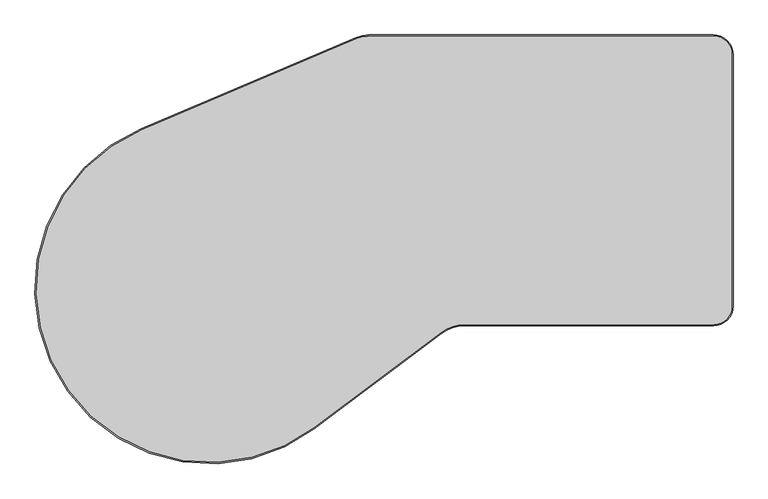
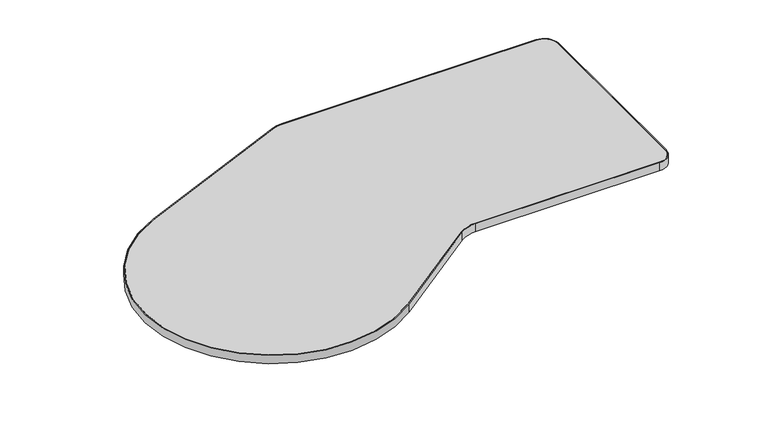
"""IFC4 building model written with IfcOpenShell, lengths in millimetres: furniture geometry, Steelcase - Answer Solution - Universal Table - Bubble Jetty - 3mm Edge : 30D x 72W - Left."""

from ifc_helpers import new_model, si_unit, point, frame, frame_2d, origin, place, context, project, spatial, polyline, circle_curve, trimmed, segment, composite_curve, outline, extrude, source, transform, mapped, element, save


def furniture_c1630981(model_context):
    return source(origin(), model_context, "Body", "SweptSolid", [
        extrude(outline(composite_curve([segment(polyline([(-953.9450486, 0.0), (-52.48308, 0.0)]), True, "CONTINUOUS"), segment(trimmed(circle_curve(frame_2d((-52.48308, -52.48308)), 52.48308), [point((-52.48308, 0.0))], [point((0.0, -52.48308))], False, "CARTESIAN"), True, "CONTINUOUS"), segment(polyline([(0.0, -52.48308), (0.0, -711.2)]), True, "CONTINUOUS"), segment(trimmed(circle_curve(frame_2d((-50.8, -711.2)), 50.8), [point((0.0, -711.2))], [point((-50.8, -762.0))], False, "CARTESIAN"), True, "CONTINUOUS"), segment(polyline([(-50.8, -762.0), (-704.4618773, -762.0)]), True, "CONTINUOUS"), segment(trimmed(circle_curve(frame_2d((-704.4618773, -860.1972534)), 98.1972534), [point((-704.4618773, -762.0))], [point((-763.3782105, -781.6379366))], True, "CARTESIAN"), True, "CONTINUOUS"), segment(polyline([(-763.3782105, -781.6379366), (-1097.5002406, -1032.216043)]), True, "CONTINUOUS"), segment(trimmed(circle_curve(frame_2d((-1372.0442318, -666.5465277)), 457.2620666), [point((-1097.5002406, -1032.216043))], [point((-1550.7107551, -245.634576))], False, "CARTESIAN"), True, "CONTINUOUS"), segment(polyline([(-1550.7107551, -245.634576), (-988.6810459, -7.0671185)]), True, "CONTINUOUS"), segment(trimmed(circle_curve(frame_2d((-953.9450486, -88.9)), 88.9), [point((-988.6810459, -7.0671185))], [point((-953.9450486, 0.0))], False, "CARTESIAN"), True, "CONTINUOUS")], self_intersect=False), holes=[composite_curve([segment(polyline([(-703.3262558, -758.9513489), (-50.7998062, -758.9513489)]), True, "CONTINUOUS"), segment(trimmed(circle_curve(frame_2d((-50.7998062, -711.1996124)), 47.7517365), [point((-50.7998062, -758.9513489))], [point((-3.0480698, -711.1996124))], True, "CARTESIAN"), True, "CONTINUOUS"), segment(polyline([(-3.0480698, -711.1996124), (-3.0480698, -50.7992249)]), True, "CONTINUOUS"), segment(trimmed(circle_curve(frame_2d((-50.7998062, -50.7992249)), 47.7517365), [point((-3.0480698, -50.7992249))], [point((-50.7998062, -3.0474884))], True, "CARTESIAN"), True, "CONTINUOUS"), segment(polyline([(-50.7998062, -3.0474884), (-956.5263638, -3.0474883)]), True, "CONTINUOUS"), segment(trimmed(circle_curve(frame_2d((-956.5263638, -76.2082332)), 73.1607449), [point((-956.5263638, -3.0474883))], [point((-985.1125443, -8.8634125))], True, "CARTESIAN"), True, "CONTINUOUS"), segment(polyline([(-985.1125443, -8.8634125), (-1549.0177644, -248.2269771)]), True, "CONTINUOUS"), segment(trimmed(circle_curve(frame_2d((-1371.5678264, -666.2728333)), 454.1484541), [point((-1549.0177644, -248.2269771))], [point((-1099.1177948, -1029.620874))], True, "CARTESIAN"), True, "CONTINUOUS"), segment(polyline([(-1099.1177948, -1029.620874), (-766.1099232, -779.8783417)]), True, "CONTINUOUS"), segment(trimmed(circle_curve(frame_2d((-703.3262558, -863.5943802)), 104.6430313), [point((-766.1099232, -779.8783417))], [point((-703.3262558, -758.9513489))], False, "CARTESIAN"), True, "CONTINUOUS")], self_intersect=False)]), frame((0.0, 0.0, 668.274), z_axis=(0.0, 0.0, 1.0), x_axis=(1.0, 0.0, 0.0)), (0.0, 0.0, 1.0), 30.0990349),
        extrude(outline(composite_curve([segment(polyline([(-3.0480698, -50.7992249), (-3.0480698, -711.1996124)]), True, "CONTINUOUS"), segment(trimmed(circle_curve(frame_2d((-50.7998062, -711.1996124)), 47.7517365), [point((-3.0480698, -711.1996124))], [point((-50.7998062, -758.9513489))], False, "CARTESIAN"), True, "CONTINUOUS"), segment(polyline([(-50.7998062, -758.9513489), (-703.3262558, -758.9513489)]), True, "CONTINUOUS"), segment(trimmed(circle_curve(frame_2d((-703.3262558, -863.5943802)), 104.6430313), [point((-703.3262558, -758.9513489))], [point((-766.1099232, -779.8783417))], True, "CARTESIAN"), True, "CONTINUOUS"), segment(polyline([(-766.1099232, -779.8783417), (-1099.1177948, -1029.620874)]), True, "CONTINUOUS"), segment(trimmed(circle_curve(frame_2d((-1371.5678264, -666.2728333)), 454.1484541), [point((-1099.1177948, -1029.620874))], [point((-1549.0177644, -248.2269771))], False, "CARTESIAN"), True, "CONTINUOUS"), segment(polyline([(-1549.0177644, -248.2269771), (-985.1125443, -8.8634125)]), True, "CONTINUOUS"), segment(trimmed(circle_curve(frame_2d((-956.5263638, -76.2082332)), 73.1607449), [point((-985.1125443, -8.8634125))], [point((-956.5263638, -3.0474883))], False, "CARTESIAN"), True, "CONTINUOUS"), segment(polyline([(-956.5263638, -3.0474883), (-50.7998062, -3.0474884)]), True, "CONTINUOUS"), segment(trimmed(circle_curve(frame_2d((-50.7998062, -50.7992249)), 47.7517365), [point((-50.7998062, -3.0474884))], [point((-3.0480698, -50.7992249))], False, "CARTESIAN"), True, "CONTINUOUS")], self_intersect=False)), frame((0.0, 0.0, 668.274), z_axis=(0.0, 0.0, 1.0), x_axis=(1.0, 0.0, 0.0)), (0.0, 0.0, 1.0), 30.0990349),
    ])


if __name__ == "__main__":
    model = new_model("IFC4")
    model_context = context("Model", 3, world=origin())
    ifc_project = project(units=[si_unit("LENGTHUNIT", "METRE", prefix="MILLI")], contexts=[model_context])
    site = spatial("IfcSite", under=ifc_project)
    building = spatial("IfcBuilding", under=site)
    placement = place(None, origin())
    furniture_shape = furniture_c1630981(model_context)
    element("IfcFurniture", 1, ObjectType="Steelcase - Answer Solution - Universal Table - Bubble Jetty - 3mm Edge : 30D x 72W - Left", at=placement, inside=building, context=model_context, shape_type="MappedRepresentation", body=[
        mapped(furniture_shape, transform((0.0, 0.0, 0.0), x_axis=(1.0, 0.0, 0.0), y_axis=(0.0, 1.0, 0.0), z_axis=(0.0, 0.0, 1.0))),
    ])
    save(model, "model.ifc")
